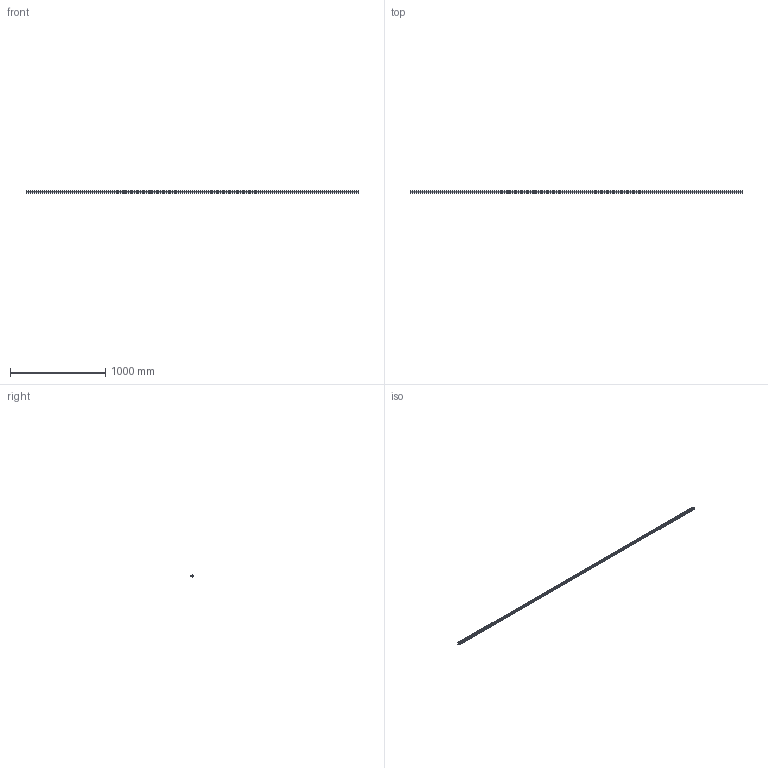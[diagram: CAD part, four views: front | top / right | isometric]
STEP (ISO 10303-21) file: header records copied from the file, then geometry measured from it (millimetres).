
FILE_DESCRIPTION (( 'STEP AP203' ), '1' );
FILE_NAME ('L1018.25R-3480.step', '2023-08-06T10:48:03', ( '' ), ( '' ), 'SwSTEP 2.0', 'SolidWorks 2019', '' );
FILE_SCHEMA (( 'CONFIG_CONTROL_DESIGN' ));
Length unit declared in the file: millimetre
Products named in the file (1): L1018.25R-3480
Bounding box: 3480 x 21.8 x 25 mm (x, y, z)
Volume: 1447290.6 mm3; surface area: 346409.2 mm2
Topology: 1 solids, 1 shells, 551 faces, 1241 edges, 692 vertices
Faces by surface type: cylinder 235, cone 232, plane 84
Entity records: 14570 total; most frequent: DIRECTION 2815, CARTESIAN_POINT 2369, ORIENTED_EDGE 2250, AXIS2_PLACEMENT_3D 1138, EDGE_CURVE 1125, VERTEX_POINT 692, EDGE_LOOP 667, CIRCLE 586
